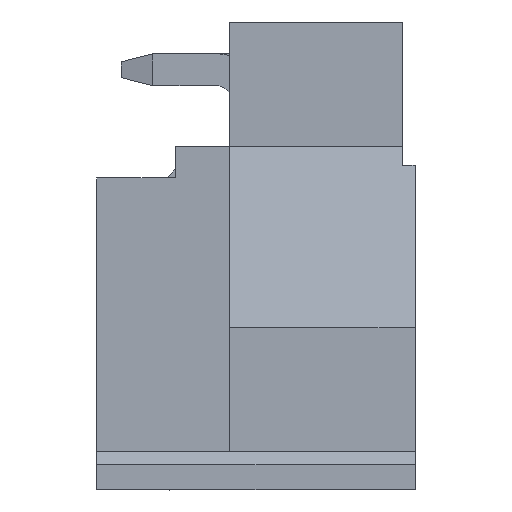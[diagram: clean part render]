
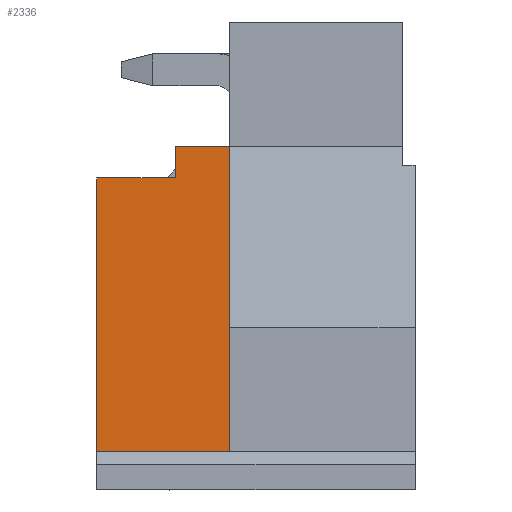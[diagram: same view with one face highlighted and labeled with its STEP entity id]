
A CAD part, front view. The second image highlights one B-rep face of the part: STEP entity #2336.
In plain terms, the highlighted free-form (B-spline) face has degree [1, 1] with [2, 2] control points.
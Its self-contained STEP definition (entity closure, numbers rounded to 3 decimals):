
#31 = B_SPLINE_SURFACE_WITH_KNOTS('',1,1,(
    (#32,#33)
    ,(#34,#35)),.UNSPECIFIED.,.F.,.F.,.F.,(2,2),(2,2),(0.,1.),(0.,1.),
  .PIECEWISE_BEZIER_KNOTS.);
#32 = CARTESIAN_POINT('',(0.,-11.318,-13.568));
#33 = CARTESIAN_POINT('',(0.,6.018,-13.568));
#34 = CARTESIAN_POINT('',(0.,-11.318,3.768));
#35 = CARTESIAN_POINT('',(0.,6.018,3.768));
#204 = VERTEX_POINT('',#205);
#205 = CARTESIAN_POINT('',(0.,-3.9,-8.6));
#217 = B_SPLINE_SURFACE_WITH_KNOTS('',1,1,(
    (#218,#219)
    ,(#220,#221)),.UNSPECIFIED.,.F.,.F.,.F.,(2,2),(2,2),(0.,1.),(0.,1.),
  .PIECEWISE_BEZIER_KNOTS.);
#218 = CARTESIAN_POINT('',(-0.706,-0.944,-8.6));
#219 = CARTESIAN_POINT('',(10.706,-0.944,-8.6));
#220 = CARTESIAN_POINT('',(-0.706,-12.356,-8.6));
#221 = CARTESIAN_POINT('',(10.706,-12.356,-8.6));
#228 = EDGE_CURVE('',#204,#229,#231,.T.);
#229 = VERTEX_POINT('',#230);
#230 = CARTESIAN_POINT('',(0.,-3.9,0.));
#231 = SURFACE_CURVE('',#232,(#235,#241),.PCURVE_S1.);
#232 = B_SPLINE_CURVE_WITH_KNOTS('',1,(#233,#234),.UNSPECIFIED.,.F.,.F.,
  (2,2),(0.,1.),.PIECEWISE_BEZIER_KNOTS.);
#233 = CARTESIAN_POINT('',(0.,-3.9,-8.6));
#234 = CARTESIAN_POINT('',(0.,-3.9,0.));
#235 = PCURVE('',#31,#236);
#236 = DEFINITIONAL_REPRESENTATION('',(#237),#240);
#237 = B_SPLINE_CURVE_WITH_KNOTS('',1,(#238,#239),.UNSPECIFIED.,.F.,.F.,
  (2,2),(0.,1.),.PIECEWISE_BEZIER_KNOTS.);
#238 = CARTESIAN_POINT('',(0.287,0.428));
#239 = CARTESIAN_POINT('',(0.783,0.428));
#240 = ( GEOMETRIC_REPRESENTATION_CONTEXT(2) 
PARAMETRIC_REPRESENTATION_CONTEXT() REPRESENTATION_CONTEXT('2D SPACE',''
  ) );
#241 = PCURVE('',#242,#247);
#242 = B_SPLINE_SURFACE_WITH_KNOTS('',1,1,(
    (#243,#244)
    ,(#245,#246)),.UNSPECIFIED.,.F.,.F.,.F.,(2,2),(2,2),(0.,1.),(0.,1.),
  .PIECEWISE_BEZIER_KNOTS.);
#243 = CARTESIAN_POINT('',(-3.151,-3.9,1.431));
#244 = CARTESIAN_POINT('',(7.311,-3.9,1.431));
#245 = CARTESIAN_POINT('',(-3.151,-3.9,-9.031));
#246 = CARTESIAN_POINT('',(7.311,-3.9,-9.031));
#247 = DEFINITIONAL_REPRESENTATION('',(#248),#251);
#248 = B_SPLINE_CURVE_WITH_KNOTS('',1,(#249,#250),.UNSPECIFIED.,.F.,.F.,
  (2,2),(0.,1.),.PIECEWISE_BEZIER_KNOTS.);
#249 = CARTESIAN_POINT('',(0.959,0.301));
#250 = CARTESIAN_POINT('',(0.137,0.301));
#251 = ( GEOMETRIC_REPRESENTATION_CONTEXT(2) 
PARAMETRIC_REPRESENTATION_CONTEXT() REPRESENTATION_CONTEXT('2D SPACE',''
  ) );
#267 = B_SPLINE_SURFACE_WITH_KNOTS('',1,1,(
    (#268,#269)
    ,(#270,#271)),.UNSPECIFIED.,.F.,.F.,.F.,(2,2),(2,2),(0.,1.),(0.,1.),
  .PIECEWISE_BEZIER_KNOTS.);
#268 = CARTESIAN_POINT('',(3.288,-4.308,0.));
#269 = CARTESIAN_POINT('',(-0.828,-4.308,0.));
#270 = CARTESIAN_POINT('',(3.288,-0.192,0.));
#271 = CARTESIAN_POINT('',(-0.828,-0.192,0.));
#2293 = VERTEX_POINT('',#2294);
#2294 = CARTESIAN_POINT('',(4.16,-3.9,-8.6));
#2306 = B_SPLINE_SURFACE_WITH_KNOTS('',1,1,(
    (#2307,#2308)
    ,(#2309,#2310
    )),.UNSPECIFIED.,.F.,.F.,.F.,(2,2),(2,2),(0.,1.),(0.,1.),
  .PIECEWISE_BEZIER_KNOTS.);
#2307 = CARTESIAN_POINT('',(4.16,-12.446,-9.696));
#2308 = CARTESIAN_POINT('',(4.16,3.246,-9.696));
#2309 = CARTESIAN_POINT('',(4.16,-12.446,5.996));
#2310 = CARTESIAN_POINT('',(4.16,3.246,5.996));
#2317 = EDGE_CURVE('',#2293,#204,#2318,.T.);
#2318 = SURFACE_CURVE('',#2319,(#2322,#2328),.PCURVE_S1.);
#2319 = B_SPLINE_CURVE_WITH_KNOTS('',1,(#2320,#2321),.UNSPECIFIED.,.F.,
  .F.,(2,2),(0.,1.),.PIECEWISE_BEZIER_KNOTS.);
#2320 = CARTESIAN_POINT('',(4.16,-3.9,-8.6));
#2321 = CARTESIAN_POINT('',(0.,-3.9,-8.6));
#2322 = PCURVE('',#217,#2323);
#2323 = DEFINITIONAL_REPRESENTATION('',(#2324),#2327);
#2324 = B_SPLINE_CURVE_WITH_KNOTS('',1,(#2325,#2326),.UNSPECIFIED.,.F.,
  .F.,(2,2),(0.,1.),.PIECEWISE_BEZIER_KNOTS.);
#2325 = CARTESIAN_POINT('',(0.259,0.426));
#2326 = CARTESIAN_POINT('',(0.259,0.062));
#2327 = ( GEOMETRIC_REPRESENTATION_CONTEXT(2) 
PARAMETRIC_REPRESENTATION_CONTEXT() REPRESENTATION_CONTEXT('2D SPACE',''
  ) );
#2328 = PCURVE('',#242,#2329);
#2329 = DEFINITIONAL_REPRESENTATION('',(#2330),#2333);
#2330 = B_SPLINE_CURVE_WITH_KNOTS('',1,(#2331,#2332),.UNSPECIFIED.,.F.,
  .F.,(2,2),(0.,1.),.PIECEWISE_BEZIER_KNOTS.);
#2331 = CARTESIAN_POINT('',(0.959,0.699));
#2332 = CARTESIAN_POINT('',(0.959,0.301));
#2333 = ( GEOMETRIC_REPRESENTATION_CONTEXT(2) 
PARAMETRIC_REPRESENTATION_CONTEXT() REPRESENTATION_CONTEXT('2D SPACE',''
  ) );
#2336 = ADVANCED_FACE('',(#2337),#242,.T.);
#2337 = FACE_BOUND('',#2338,.T.);
#2338 = EDGE_LOOP('',(#2339,#2366,#2391,#2409,#2410,#2411));
#2339 = ORIENTED_EDGE('',*,*,#2340,.T.);
#2340 = EDGE_CURVE('',#2341,#2343,#2345,.T.);
#2341 = VERTEX_POINT('',#2342);
#2342 = CARTESIAN_POINT('',(4.16,-3.9,1.));
#2343 = VERTEX_POINT('',#2344);
#2344 = CARTESIAN_POINT('',(2.46,-3.9,1.));
#2345 = SURFACE_CURVE('',#2346,(#2349,#2355),.PCURVE_S1.);
#2346 = B_SPLINE_CURVE_WITH_KNOTS('',1,(#2347,#2348),.UNSPECIFIED.,.F.,
  .F.,(2,2),(0.,1.),.PIECEWISE_BEZIER_KNOTS.);
#2347 = CARTESIAN_POINT('',(4.16,-3.9,1.));
#2348 = CARTESIAN_POINT('',(2.46,-3.9,1.));
#2349 = PCURVE('',#242,#2350);
#2350 = DEFINITIONAL_REPRESENTATION('',(#2351),#2354);
#2351 = B_SPLINE_CURVE_WITH_KNOTS('',1,(#2352,#2353),.UNSPECIFIED.,.F.,
  .F.,(2,2),(0.,1.),.PIECEWISE_BEZIER_KNOTS.);
#2352 = CARTESIAN_POINT('',(0.041,0.699));
#2353 = CARTESIAN_POINT('',(0.041,0.536));
#2354 = ( GEOMETRIC_REPRESENTATION_CONTEXT(2) 
PARAMETRIC_REPRESENTATION_CONTEXT() REPRESENTATION_CONTEXT('2D SPACE',''
  ) );
#2355 = PCURVE('',#2356,#2361);
#2356 = B_SPLINE_SURFACE_WITH_KNOTS('',1,1,(
    (#2357,#2358)
    ,(#2359,#2360
    )),.UNSPECIFIED.,.F.,.F.,.F.,(2,2),(2,2),(0.,1.),(0.,1.),
  .PIECEWISE_BEZIER_KNOTS.);
#2357 = CARTESIAN_POINT('',(5.166,-4.106,1.));
#2358 = CARTESIAN_POINT('',(1.454,-4.106,1.));
#2359 = CARTESIAN_POINT('',(5.166,-0.394,1.));
#2360 = CARTESIAN_POINT('',(1.454,-0.394,1.));
#2361 = DEFINITIONAL_REPRESENTATION('',(#2362),#2365);
#2362 = B_SPLINE_CURVE_WITH_KNOTS('',1,(#2363,#2364),.UNSPECIFIED.,.F.,
  .F.,(2,2),(0.,1.),.PIECEWISE_BEZIER_KNOTS.);
#2363 = CARTESIAN_POINT('',(0.056,0.271));
#2364 = CARTESIAN_POINT('',(0.056,0.729));
#2365 = ( GEOMETRIC_REPRESENTATION_CONTEXT(2) 
PARAMETRIC_REPRESENTATION_CONTEXT() REPRESENTATION_CONTEXT('2D SPACE',''
  ) );
#2366 = ORIENTED_EDGE('',*,*,#2367,.T.);
#2367 = EDGE_CURVE('',#2343,#2368,#2370,.T.);
#2368 = VERTEX_POINT('',#2369);
#2369 = CARTESIAN_POINT('',(2.46,-3.9,0.));
#2370 = SURFACE_CURVE('',#2371,(#2374,#2380),.PCURVE_S1.);
#2371 = B_SPLINE_CURVE_WITH_KNOTS('',1,(#2372,#2373),.UNSPECIFIED.,.F.,
  .F.,(2,2),(0.,1.),.PIECEWISE_BEZIER_KNOTS.);
#2372 = CARTESIAN_POINT('',(2.46,-3.9,1.));
#2373 = CARTESIAN_POINT('',(2.46,-3.9,0.));
#2374 = PCURVE('',#242,#2375);
#2375 = DEFINITIONAL_REPRESENTATION('',(#2376),#2379);
#2376 = B_SPLINE_CURVE_WITH_KNOTS('',1,(#2377,#2378),.UNSPECIFIED.,.F.,
  .F.,(2,2),(0.,1.),.PIECEWISE_BEZIER_KNOTS.);
#2377 = CARTESIAN_POINT('',(0.041,0.536));
#2378 = CARTESIAN_POINT('',(0.137,0.536));
#2379 = ( GEOMETRIC_REPRESENTATION_CONTEXT(2) 
PARAMETRIC_REPRESENTATION_CONTEXT() REPRESENTATION_CONTEXT('2D SPACE',''
  ) );
#2380 = PCURVE('',#2381,#2386);
#2381 = B_SPLINE_SURFACE_WITH_KNOTS('',1,1,(
    (#2382,#2383)
    ,(#2384,#2385
    )),.UNSPECIFIED.,.F.,.F.,.F.,(2,2),(2,2),(0.,1.),(0.,1.),
  .PIECEWISE_BEZIER_KNOTS.);
#2382 = CARTESIAN_POINT('',(2.46,-3.974,-1.224));
#2383 = CARTESIAN_POINT('',(2.46,-0.526,-1.224));
#2384 = CARTESIAN_POINT('',(2.46,-3.974,2.224));
#2385 = CARTESIAN_POINT('',(2.46,-0.526,2.224));
#2386 = DEFINITIONAL_REPRESENTATION('',(#2387),#2390);
#2387 = B_SPLINE_CURVE_WITH_KNOTS('',1,(#2388,#2389),.UNSPECIFIED.,.F.,
  .F.,(2,2),(0.,1.),.PIECEWISE_BEZIER_KNOTS.);
#2388 = CARTESIAN_POINT('',(0.645,0.021));
#2389 = CARTESIAN_POINT('',(0.355,0.021));
#2390 = ( GEOMETRIC_REPRESENTATION_CONTEXT(2) 
PARAMETRIC_REPRESENTATION_CONTEXT() REPRESENTATION_CONTEXT('2D SPACE',''
  ) );
#2391 = ORIENTED_EDGE('',*,*,#2392,.T.);
#2392 = EDGE_CURVE('',#2368,#229,#2393,.T.);
#2393 = SURFACE_CURVE('',#2394,(#2397,#2403),.PCURVE_S1.);
#2394 = B_SPLINE_CURVE_WITH_KNOTS('',1,(#2395,#2396),.UNSPECIFIED.,.F.,
  .F.,(2,2),(0.,1.),.PIECEWISE_BEZIER_KNOTS.);
#2395 = CARTESIAN_POINT('',(2.46,-3.9,0.));
#2396 = CARTESIAN_POINT('',(0.,-3.9,0.));
#2397 = PCURVE('',#242,#2398);
#2398 = DEFINITIONAL_REPRESENTATION('',(#2399),#2402);
#2399 = B_SPLINE_CURVE_WITH_KNOTS('',1,(#2400,#2401),.UNSPECIFIED.,.F.,
  .F.,(2,2),(0.,1.),.PIECEWISE_BEZIER_KNOTS.);
#2400 = CARTESIAN_POINT('',(0.137,0.536));
#2401 = CARTESIAN_POINT('',(0.137,0.301));
#2402 = ( GEOMETRIC_REPRESENTATION_CONTEXT(2) 
PARAMETRIC_REPRESENTATION_CONTEXT() REPRESENTATION_CONTEXT('2D SPACE',''
  ) );
#2403 = PCURVE('',#267,#2404);
#2404 = DEFINITIONAL_REPRESENTATION('',(#2405),#2408);
#2405 = B_SPLINE_CURVE_WITH_KNOTS('',1,(#2406,#2407),.UNSPECIFIED.,.F.,
  .F.,(2,2),(0.,1.),.PIECEWISE_BEZIER_KNOTS.);
#2406 = CARTESIAN_POINT('',(0.099,0.201));
#2407 = CARTESIAN_POINT('',(0.099,0.799));
#2408 = ( GEOMETRIC_REPRESENTATION_CONTEXT(2) 
PARAMETRIC_REPRESENTATION_CONTEXT() REPRESENTATION_CONTEXT('2D SPACE',''
  ) );
#2409 = ORIENTED_EDGE('',*,*,#228,.F.);
#2410 = ORIENTED_EDGE('',*,*,#2317,.F.);
#2411 = ORIENTED_EDGE('',*,*,#2412,.T.);
#2412 = EDGE_CURVE('',#2293,#2341,#2413,.T.);
#2413 = SURFACE_CURVE('',#2414,(#2417,#2423),.PCURVE_S1.);
#2414 = B_SPLINE_CURVE_WITH_KNOTS('',1,(#2415,#2416),.UNSPECIFIED.,.F.,
  .F.,(2,2),(0.,1.),.PIECEWISE_BEZIER_KNOTS.);
#2415 = CARTESIAN_POINT('',(4.16,-3.9,-8.6));
#2416 = CARTESIAN_POINT('',(4.16,-3.9,1.));
#2417 = PCURVE('',#242,#2418);
#2418 = DEFINITIONAL_REPRESENTATION('',(#2419),#2422);
#2419 = B_SPLINE_CURVE_WITH_KNOTS('',1,(#2420,#2421),.UNSPECIFIED.,.F.,
  .F.,(2,2),(0.,1.),.PIECEWISE_BEZIER_KNOTS.);
#2420 = CARTESIAN_POINT('',(0.959,0.699));
#2421 = CARTESIAN_POINT('',(0.041,0.699));
#2422 = ( GEOMETRIC_REPRESENTATION_CONTEXT(2) 
PARAMETRIC_REPRESENTATION_CONTEXT() REPRESENTATION_CONTEXT('2D SPACE',''
  ) );
#2423 = PCURVE('',#2306,#2424);
#2424 = DEFINITIONAL_REPRESENTATION('',(#2425),#2428);
#2425 = B_SPLINE_CURVE_WITH_KNOTS('',1,(#2426,#2427),.UNSPECIFIED.,.F.,
  .F.,(2,2),(0.,1.),.PIECEWISE_BEZIER_KNOTS.);
#2426 = CARTESIAN_POINT('',(0.07,0.545));
#2427 = CARTESIAN_POINT('',(0.682,0.545));
#2428 = ( GEOMETRIC_REPRESENTATION_CONTEXT(2) 
PARAMETRIC_REPRESENTATION_CONTEXT() REPRESENTATION_CONTEXT('2D SPACE',''
  ) );
